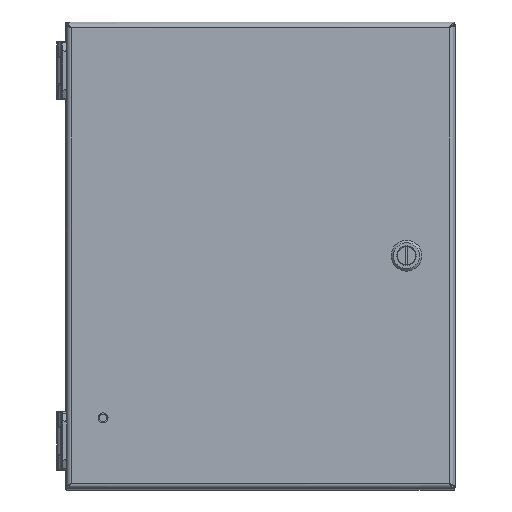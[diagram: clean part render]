
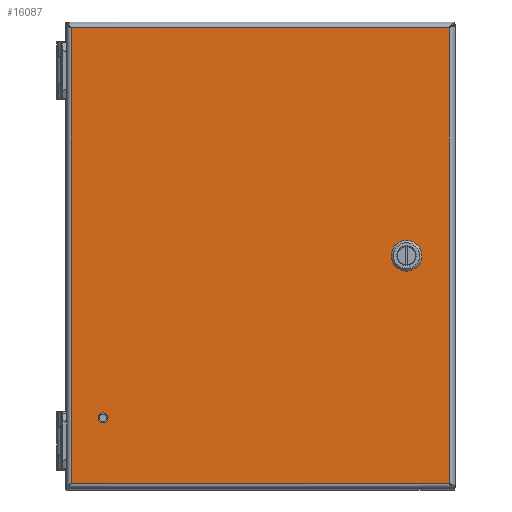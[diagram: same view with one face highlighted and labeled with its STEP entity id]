
A CAD part, top view. The second image highlights one B-rep face of the part: STEP entity #16087.
In plain terms, the highlighted planar face has unit normal (0, 0, 1).
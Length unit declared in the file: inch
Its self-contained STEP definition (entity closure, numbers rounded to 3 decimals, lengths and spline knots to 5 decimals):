
#14202=CARTESIAN_POINT('',(-4.035,-4.16,0.81));
#14203=DIRECTION('',(0.,0.,1.));
#14204=DIRECTION('',(-1.,0.,0.));
#14205=AXIS2_PLACEMENT_3D('',#14202,#14203,#14204);
#14210=CARTESIAN_POINT('',(-4.035,-4.16,0.81));
#14211=DIRECTION('',(0.,0.,1.));
#14212=DIRECTION('',(1.,0.,0.));
#14213=AXIS2_PLACEMENT_3D('',#14210,#14211,#14212);
#14218=DIRECTION('',(0.707,0.707,0.));
#14219=VECTOR('',#14218,0.30984);
#14220=CARTESIAN_POINT('',(3.44447,0.08845,0.81));
#14221=LINE('',#14220,#14219);
#14225=CARTESIAN_POINT('',(3.752,0.,0.81));
#14226=DIRECTION('',(0.,0.,1.));
#14227=DIRECTION('',(-0.961,0.276,0.));
#14228=AXIS2_PLACEMENT_3D('',#14225,#14226,#14227);
#14233=DIRECTION('',(-0.707,0.707,0.));
#14234=VECTOR('',#14233,0.30984);
#14235=CARTESIAN_POINT('',(3.66355,-0.30753,0.81));
#14236=LINE('',#14235,#14234);
#14240=CARTESIAN_POINT('',(3.752,0.,0.81));
#14241=DIRECTION('',(0.,0.,1.));
#14242=DIRECTION('',(-0.276,-0.961,0.));
#14243=AXIS2_PLACEMENT_3D('',#14240,#14241,#14242);
#14248=DIRECTION('',(-0.707,-0.707,0.));
#14249=VECTOR('',#14248,0.30984);
#14250=CARTESIAN_POINT('',(4.05953,-0.08845,0.81));
#14251=LINE('',#14250,#14249);
#14255=CARTESIAN_POINT('',(3.752,0.,0.81));
#14256=DIRECTION('',(0.,0.,1.));
#14257=DIRECTION('',(0.961,-0.276,0.));
#14258=AXIS2_PLACEMENT_3D('',#14255,#14256,#14257);
#14263=DIRECTION('',(0.707,-0.707,0.));
#14264=VECTOR('',#14263,0.30984);
#14265=CARTESIAN_POINT('',(3.84045,0.30753,0.81));
#14266=LINE('',#14265,#14264);
#14270=CARTESIAN_POINT('',(3.752,0.,0.81));
#14271=DIRECTION('',(0.,0.,1.));
#14272=DIRECTION('',(0.276,0.961,0.));
#14273=AXIS2_PLACEMENT_3D('',#14270,#14271,#14272);
#14278=DIRECTION('',(1.,0.,0.));
#14279=VECTOR('',#14278,9.7);
#14280=CARTESIAN_POINT('',(-4.85,-5.85,0.81));
#14281=LINE('',#14280,#14279);
#14370=DIRECTION('',(0.,1.,0.));
#14371=VECTOR('',#14370,11.7);
#14372=CARTESIAN_POINT('',(4.85,-5.85,0.81));
#14373=LINE('',#14372,#14371);
#14420=DIRECTION('',(-1.,0.,0.));
#14421=VECTOR('',#14420,9.7);
#14422=CARTESIAN_POINT('',(4.85,5.85,0.81));
#14423=LINE('',#14422,#14421);
#14519=DIRECTION('',(0.,-1.,0.));
#14520=VECTOR('',#14519,11.7);
#14521=CARTESIAN_POINT('',(-4.85,5.85,0.81));
#14522=LINE('',#14521,#14520);
#15816=CARTESIAN_POINT('',(-4.85,5.85,0.81));
#15817=CARTESIAN_POINT('',(-4.85,-5.85,0.81));
#15818=VERTEX_POINT('',#15816);
#15819=VERTEX_POINT('',#15817);
#15820=CARTESIAN_POINT('',(4.85,-5.85,0.81));
#15821=CARTESIAN_POINT('',(4.85,5.85,0.81));
#15822=VERTEX_POINT('',#15820);
#15823=VERTEX_POINT('',#15821);
#15888=CARTESIAN_POINT('',(-4.13305,-4.16,0.81));
#15889=CARTESIAN_POINT('',(-3.93695,-4.16,0.81));
#15890=VERTEX_POINT('',#15888);
#15891=VERTEX_POINT('',#15889);
#15896=CARTESIAN_POINT('',(3.44447,0.08845,0.81));
#15897=CARTESIAN_POINT('',(3.66355,0.30753,0.81));
#15898=VERTEX_POINT('',#15896);
#15899=VERTEX_POINT('',#15897);
#15900=CARTESIAN_POINT('',(3.84045,0.30753,0.81));
#15901=VERTEX_POINT('',#15900);
#15902=CARTESIAN_POINT('',(4.05953,0.08845,0.81));
#15903=VERTEX_POINT('',#15902);
#15904=CARTESIAN_POINT('',(4.05953,-0.08845,0.81));
#15905=VERTEX_POINT('',#15904);
#15906=CARTESIAN_POINT('',(3.84045,-0.30753,0.81));
#15907=VERTEX_POINT('',#15906);
#15908=CARTESIAN_POINT('',(3.66355,-0.30753,0.81));
#15909=VERTEX_POINT('',#15908);
#15910=CARTESIAN_POINT('',(3.44447,-0.08845,0.81));
#15911=VERTEX_POINT('',#15910);
#16048=CARTESIAN_POINT('',(0.,0.,0.81));
#16049=DIRECTION('',(0.,0.,1.));
#16050=DIRECTION('',(1.,0.,0.));
#16051=AXIS2_PLACEMENT_3D('',#16048,#16049,#16050);
#16052=PLANE('',#16051);
#16054=ORIENTED_EDGE('',*,*,#16053,.F.);
#16056=ORIENTED_EDGE('',*,*,#16055,.F.);
#16058=ORIENTED_EDGE('',*,*,#16057,.F.);
#16060=ORIENTED_EDGE('',*,*,#16059,.F.);
#16061=EDGE_LOOP('',(#16054,#16056,#16058,#16060));
#16062=FACE_OUTER_BOUND('',#16061,.F.);
#16064=ORIENTED_EDGE('',*,*,#16063,.T.);
#16066=ORIENTED_EDGE('',*,*,#16065,.T.);
#16067=EDGE_LOOP('',(#16064,#16066));
#16068=FACE_BOUND('',#16067,.F.);
#16070=ORIENTED_EDGE('',*,*,#16069,.F.);
#16072=ORIENTED_EDGE('',*,*,#16071,.T.);
#16074=ORIENTED_EDGE('',*,*,#16073,.F.);
#16076=ORIENTED_EDGE('',*,*,#16075,.T.);
#16078=ORIENTED_EDGE('',*,*,#16077,.F.);
#16080=ORIENTED_EDGE('',*,*,#16079,.T.);
#16082=ORIENTED_EDGE('',*,*,#16081,.F.);
#16084=ORIENTED_EDGE('',*,*,#16083,.T.);
#16085=EDGE_LOOP('',(#16070,#16072,#16074,#16076,#16078,#16080,#16082,#16084));
#16086=FACE_BOUND('',#16085,.F.);
#14206=CIRCLE('',#14205,0.09805);
#14214=CIRCLE('',#14213,0.09805);
#14229=CIRCLE('',#14228,0.32);
#14244=CIRCLE('',#14243,0.32);
#14259=CIRCLE('',#14258,0.32);
#14274=CIRCLE('',#14273,0.32);
#16053=EDGE_CURVE('',#15819,#15822,#14281,.T.);
#16055=EDGE_CURVE('',#15818,#15819,#14522,.T.);
#16057=EDGE_CURVE('',#15823,#15818,#14423,.T.);
#16059=EDGE_CURVE('',#15822,#15823,#14373,.T.);
#16063=EDGE_CURVE('',#15890,#15891,#14206,.T.);
#16065=EDGE_CURVE('',#15891,#15890,#14214,.T.);
#16069=EDGE_CURVE('',#15898,#15899,#14221,.T.);
#16071=EDGE_CURVE('',#15898,#15911,#14229,.T.);
#16073=EDGE_CURVE('',#15909,#15911,#14236,.T.);
#16075=EDGE_CURVE('',#15909,#15907,#14244,.T.);
#16077=EDGE_CURVE('',#15905,#15907,#14251,.T.);
#16079=EDGE_CURVE('',#15905,#15903,#14259,.T.);
#16081=EDGE_CURVE('',#15901,#15903,#14266,.T.);
#16083=EDGE_CURVE('',#15901,#15899,#14274,.T.);
#16087=ADVANCED_FACE('',(#16062,#16068,#16086),#16052,.T.);
